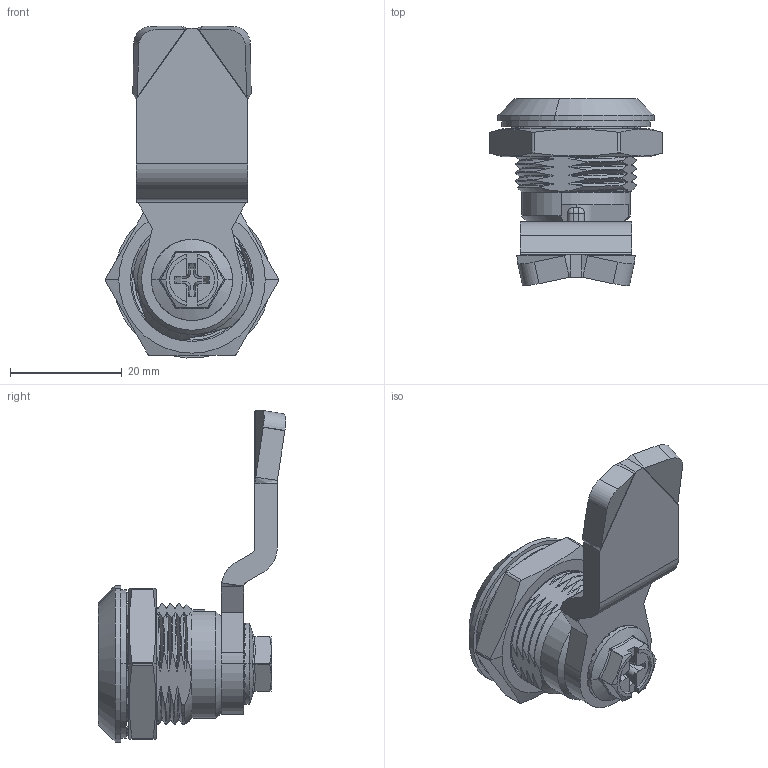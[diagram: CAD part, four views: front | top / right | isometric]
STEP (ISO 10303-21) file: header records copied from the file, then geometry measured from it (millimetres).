
FILE_DESCRIPTION (( 'STEP AP214' ), '1' );
FILE_NAME ('CUYUE.MS705.STEP', '2026-06-23T08:10:29', ( '' ), ( '' ), 'SwSTEP 2.0', 'SolidWorks 2020', '' );
FILE_SCHEMA (( 'AUTOMOTIVE_DESIGN' ));
Length unit declared in the file: millimetre
Products named in the file (7): 8SJ_MS705_0010; CUYUE.MS705; 8SJ_S1B_0001; 8SJ_MS705_0510; SW6X8; 8SJ_MS705_0760; 8SJ_MS705-1_0040
Assembly tree (6 placements, depth 2):
  CUYUE.MS705
    8SJ_MS705_0010
    8SJ_MS705_0510
    8SJ_MS705_0760
    8SJ_S1B_0001
    8SJ_MS705-1_0040
    SW6X8
Bounding box: 31.02 x 33.5 x 59.36 mm (x, y, z)
Volume: 10640.1 mm3; surface area: 10244.6 mm2
Topology: 3 solids, 9 shells, 743 faces, 1995 edges, 1153 vertices
Faces by surface type: bspline 378, cylinder 197, plane 142, cone 22, sphere 4
Entity records: 45682 total; most frequent: CARTESIAN_POINT 23194, ORIENTED_EDGE 3732, DIRECTION 2099, EDGE_CURVE 1872, VERTEX_POINT 1153, B_SPLINE_CURVE_WITH_KNOTS 853, AXIS2_PLACEMENT_3D 797, EDGE_LOOP 759
